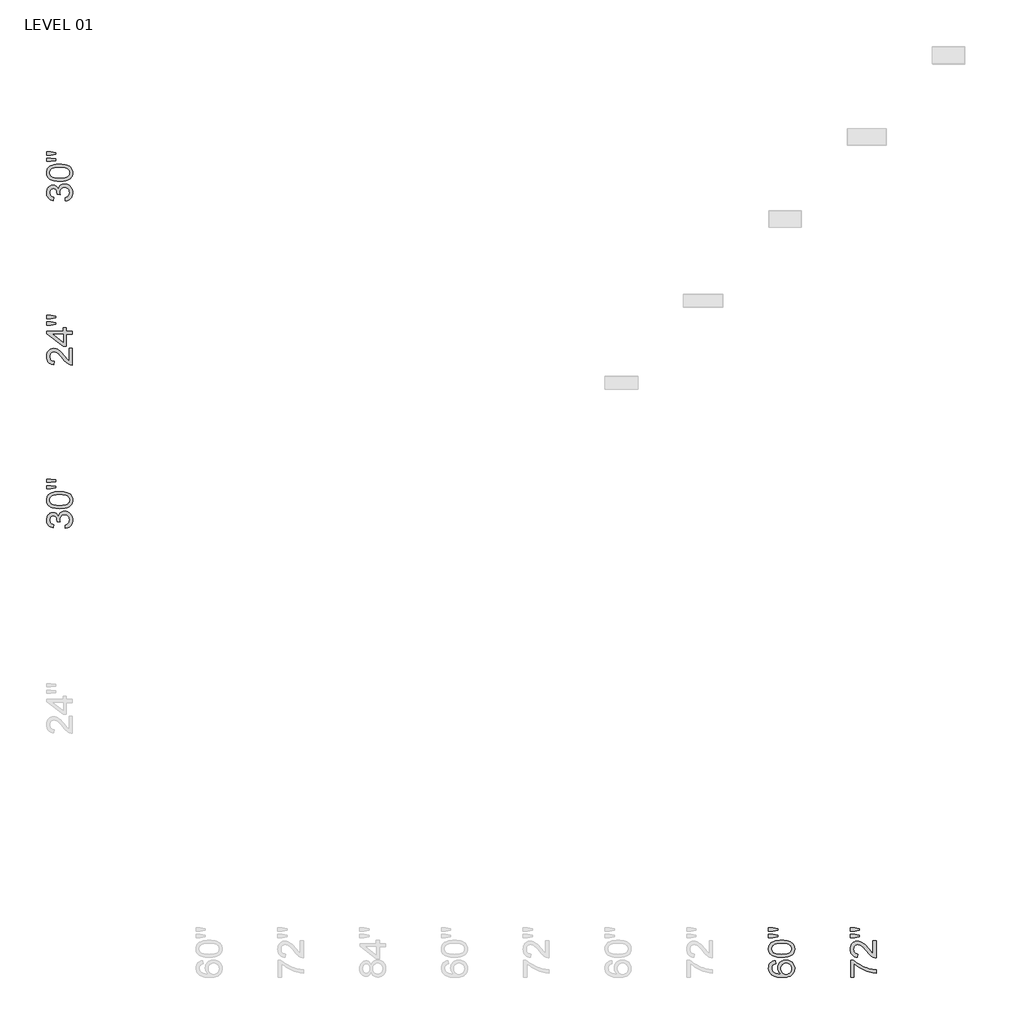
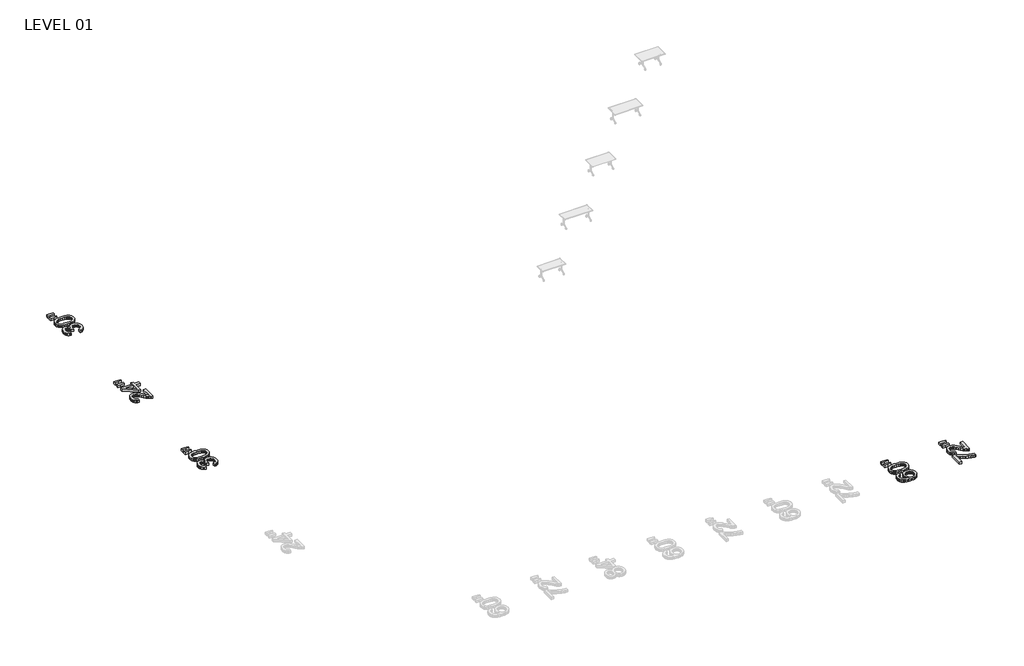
# One storey, part 3 of 3: 5 proxies.
"""IFC4 building model written with IfcOpenShell, lengths in millimetres."""

import ifcopenshell
import ifcopenshell.guid

model = None  # the IFC model being written
_history = None  # IfcOwnerHistory: only IFC2X3 demands one
_inside = {}  # id of a spatial element -> (the spatial element, [elements in it])
_under = {}  # id of a project, library or spatial element -> (it, [spatial elements below it])
_declared = {}  # id of a project -> (the project, [libraries it declares])
_typed = {}  # id of a type object -> (the type object, [elements of that type])
_made_of = {}  # id of a material, layer set ... -> (it, [elements and type objects made of it])


def new_model(schema):
    """Start an empty IFC model of exactly this schema.

    Asked for "IFC4X3", IfcOpenShell would pick the latest addendum, in which some entities
    have other attributes; the version numbers below select the first issue.
    IFC2X3 requires an IfcOwnerHistory on every rooted entity: one is made here for all.
    """
    global model, _history
    if schema == "IFC4X3":
        model = ifcopenshell.file(schema_version=(4, 3, 0, 0))
    else:
        model = ifcopenshell.file(schema=schema)
    _inside.clear()
    _under.clear()
    _declared.clear()
    _typed.clear()
    _made_of.clear()
    _history = None
    if model.schema == "IFC2X3":
        org = make("IfcOrganization", Name="unknown")
        user = make(
            "IfcPersonAndOrganization",
            ThePerson=make("IfcPerson", FamilyName="unknown"),
            TheOrganization=org,
        )
        app = make(
            "IfcApplication",
            ApplicationDeveloper=org,
            Version="unknown",
            ApplicationFullName="unknown",
            ApplicationIdentifier="unknown",
        )
        _history = make(
            "IfcOwnerHistory",
            OwningUser=user,
            OwningApplication=app,
            ChangeAction="ADDED",
            CreationDate=0,
        )
    return model


def make(cls, **values):
    """One entity of the class cls with the attributes given. An attribute that is None is left unset."""
    return model.create_entity(
        cls, **{name: value for name, value in values.items() if value is not None}
    )


def rooted(cls, **values):
    """An entity with a GlobalId (a new one), such as an element, a storey or a relation."""
    return make(cls, GlobalId=ifcopenshell.guid.new(), OwnerHistory=_history, **values)


def si_unit(unit_type, name, prefix=None):
    """IfcSIUnit, for example si_unit("LENGTHUNIT", "METRE", prefix="MILLI")."""
    return make("IfcSIUnit", UnitType=unit_type, Prefix=prefix, Name=name)


def assignment(units):
    """IfcUnitAssignment: the units of a project."""
    return None if units is None else make("IfcUnitAssignment", Units=units)


def point(xyz):
    """IfcCartesianPoint."""
    return None if xyz is None else make("IfcCartesianPoint", Coordinates=xyz)


def direction(xyz):
    """IfcDirection."""
    return None if xyz is None else make("IfcDirection", DirectionRatios=xyz)


def frame(location, z_axis=None, x_axis=None):
    """IfcAxis2Placement3D, a coordinate frame: its origin and axes. An axis left out is left unset."""
    return make(
        "IfcAxis2Placement3D",
        Location=point(location),
        Axis=direction(z_axis),
        RefDirection=direction(x_axis),
    )


def origin():
    """The frame at (0, 0, 0) with its axes left unset."""
    return frame((0.0, 0.0, 0.0))


def origin_with_axes():
    """The frame at (0, 0, 0) with the z axis (0, 0, 1) and the x axis (1, 0, 0) written out."""
    return frame((0.0, 0.0, 0.0), z_axis=(0.0, 0.0, 1.0), x_axis=(1.0, 0.0, 0.0))


def place(relative_to, where):
    """IfcLocalPlacement: puts the frame where relative to a parent placement (None: the world)."""
    return make(
        "IfcLocalPlacement", PlacementRelTo=relative_to, RelativePlacement=where
    )


def context(
    kind, dimensions, precision=None, world=None, true_north=None, identifier=None
):
    """IfcGeometricRepresentationContext, for example the 3D "Model" context."""
    return make(
        "IfcGeometricRepresentationContext",
        ContextIdentifier=identifier,
        ContextType=kind,
        CoordinateSpaceDimension=dimensions,
        Precision=precision,
        WorldCoordinateSystem=world,
        TrueNorth=true_north,
    )


def project(units=None, contexts=None):
    """IfcProject with its units and contexts."""
    return rooted(
        "IfcProject",
        Name="project",
        RepresentationContexts=contexts,
        UnitsInContext=assignment(units),
    )


def spatial(cls, under=None, at=None, **own):
    """A site, building, storey or space (cls), placed at a placement, below another one or the project."""
    s = rooted(cls, ObjectPlacement=at, **own)
    if under is not None:
        _under.setdefault(under.id(), (under, []))[1].append(s)
    return s


def polyline(points):
    """IfcPolyline through the points."""
    return make("IfcPolyline", Points=[point(p) for p in points])


def outline(outer, holes=None, kind="AREA"):
    """IfcArbitraryClosedProfileDef: a profile drawn as a closed curve; with holes, ...WithVoids."""
    if holes is None:
        return make("IfcArbitraryClosedProfileDef", ProfileType=kind, OuterCurve=outer)
    return make(
        "IfcArbitraryProfileDefWithVoids",
        ProfileType=kind,
        OuterCurve=outer,
        InnerCurves=holes,
    )


def extrude(swept, where, along, depth):
    """IfcExtrudedAreaSolid: the profile swept, set in the frame where, extruded along a direction by depth."""
    return make(
        "IfcExtrudedAreaSolid",
        SweptArea=swept,
        Position=where,
        ExtrudedDirection=direction(along),
        Depth=depth,
    )


def shape(context_of_items, identifier, shape_type, items):
    """IfcShapeRepresentation: the items that make up one representation, for example the "Body"."""
    return make(
        "IfcShapeRepresentation",
        ContextOfItems=context_of_items,
        RepresentationIdentifier=identifier,
        RepresentationType=shape_type,
        Items=items,
    )


def made_of(thing, what):
    """Note that an element or type object is made of a material, layer set ...; save() writes the relation."""
    if what is not None:
        _made_of.setdefault(what.id(), (what, []))[1].append(thing)
    return thing


def element(
    cls,
    number,
    at=None,
    inside=None,
    cuts=None,
    type_object=None,
    material=None,
    context=None,
    identifier="Body",
    shape_type=None,
    held_by="IfcProductDefinitionShape",
    body=None,
    shapes=None,
    **own,
):
    """One element of the class cls, such as IfcWall. Its Tag is "e" and its number.

    at: its placement. inside: the storey or other place that contains it. cuts: it is an
    opening in that element (IfcRelVoidsElement). A single representation is given by context,
    identifier, shape_type and body (its items); several are given by shapes. held_by: the class
    of the entity that holds the representations. save() writes the other relations.
    """
    e = rooted(cls, Tag="e%d" % number, ObjectPlacement=at, **own)
    if body is not None:
        shapes = [shape(context, identifier, shape_type, body)]
    if shapes is not None:
        e.Representation = make(held_by, Representations=shapes)
    if inside is not None:
        _inside.setdefault(inside.id(), (inside, []))[1].append(e)
    if cuts is not None:
        rooted(
            "IfcRelVoidsElement", RelatingBuildingElement=cuts, RelatedOpeningElement=e
        )
    if type_object is not None:
        _typed.setdefault(type_object.id(), (type_object, []))[1].append(e)
    return made_of(e, material)


def aggregate(whole, parts):
    """IfcRelAggregates: a whole, such as a stair, and the parts it consists of."""
    return rooted("IfcRelAggregates", RelatingObject=whole, RelatedObjects=parts)


def save(model, path):
    """Write the relations noted so far, then the file.

    IfcRelAggregates (storeys below a building ...), IfcRelContainedInSpatialStructure (elements
    in a storey), IfcRelDefinesByType, IfcRelAssociatesMaterial and IfcRelDeclares: one each for
    every whole, place, type object, material and project.
    """
    for whole, parts in _under.values():
        aggregate(whole, parts)
    for where, things in _inside.values():
        rooted(
            "IfcRelContainedInSpatialStructure",
            RelatedElements=things,
            RelatingStructure=where,
        )
    for kind, things in _typed.values():
        rooted("IfcRelDefinesByType", RelatedObjects=things, RelatingType=kind)
    for what, things in _made_of.values():
        rooted("IfcRelAssociatesMaterial", RelatedObjects=things, RelatingMaterial=what)
    for by, libraries in _declared.values():
        rooted("IfcRelDeclares", RelatingContext=by, RelatedDefinitions=libraries)
    model.write(path)


model = new_model("IFC4")

# Units and contexts
model_context = context("Model", 3, world=origin())
ifc_project = project(units=[si_unit("LENGTHUNIT", "METRE", prefix="MILLI")], contexts=[model_context])

# Site, building, storey
site = spatial("IfcSite", under=ifc_project)
building = spatial("IfcBuilding", under=site)
storey = spatial("IfcBuildingStorey", under=building, Name="LEVEL 01", Elevation=0.0)

# Proxies
placement = place(None, origin())
element("IfcBuildingElementProxy", 1, Name="48\" Arial", ObjectType="48\" Arial", at=placement, inside=storey, context=model_context, shape_type="SweptSolid", body=[
    extrude(outline(polyline([(-30208.5180809, -24506.7105112), (-30227.275004, -24356.6551266), (-30176.2979367, -24341.8089487), (-30132.977504, -24323.0611843), (-30097.3137059, -24300.4118333), (-30069.3065425, -24273.8608958), (-30048.1500521, -24242.8039006), (-30033.0382732, -24206.6363766), (-30023.9712059, -24165.3583237), (-30020.9488502, -24118.9697419), (-30025.106879, -24064.6039727), (-30037.5809655, -24016.0997419), (-30058.3711098, -23973.4570496), (-30087.4773117, -23936.6758958), (-30122.7198117, -23907.0568093), (-30161.9188502, -23885.9003189), (-30205.0744271, -23873.2064246), (-30252.1865425, -23868.9751266), (-30297.0547877, -23873.16979), (-30337.8749079, -23885.7537804), (-30374.646903, -23906.7270977), (-30407.3707732, -23936.0897419), (-30434.233105, -23971.9183958), (-30453.4204848, -24012.2897419), (-30464.9329127, -24057.2037804), (-30468.7703886, -24106.6605112), (-30464.6673117, -24154.0657035), (-30452.3580809, -24211.8751266), (-30602.4134655, -24195.1697419), (-30600.655004, -24171.1374343), (-30603.3476482, -24124.9961362), (-30611.4255809, -24081.2360881), (-30624.8888021, -24039.85729), (-30643.7373117, -24000.8597419), (-30668.1726002, -23967.7786843), (-30698.3961579, -23944.1493573), (-30734.4079848, -23929.9717612), (-30776.2080809, -23925.2458958), (-30810.1408934, -23928.6712323), (-30841.0147155, -23938.9472419), (-30868.8295473, -23956.0739246), (-30893.5853886, -23980.0512804), (-30913.9084415, -24009.4322419), (-30928.4249079, -24042.7697419), (-30937.1347877, -24080.0637804), (-30940.0380809, -24121.3143573), (-30937.1073117, -24162.4550304), (-30928.315004, -24200.0055112), (-30913.6611579, -24233.9657996), (-30893.1457732, -24264.3358958), (-30866.7688502, -24290.36479), (-30834.5303886, -24311.3014727), (-30796.4303886, -24327.1459439), (-30752.4688502, -24337.8982035), (-30771.2257732, -24487.9535881), (-30842.8647636, -24470.1674823), (-30905.9678886, -24443.7722419), (-30960.5351482, -24408.7678669), (-31006.5665425, -24365.1543573), (-31043.1095713, -24314.3055112), (-31069.2117348, -24257.5951266), (-31084.8730329, -24195.0232035), (-31090.0934655, -24126.5897419), (-31087.5198838, -24078.461016), (-31079.7991386, -24032.2556073), (-31066.93123, -23987.973516), (-31048.9161579, -23945.6147419), (-31026.4408213, -23906.6538285), (-31000.1921194, -23872.5653189), (-30970.1700521, -23843.3492131), (-30936.3746194, -23819.0055112), (-30900.1521434, -23799.8364487), (-30862.8489463, -23786.1442612), (-30824.465028, -23777.9289487), (-30785.0003886, -23775.1905112), (-30747.8895232, -23777.7915689), (-30712.4638502, -23785.5947419), (-30678.7233694, -23798.6000304), (-30646.6680809, -23816.8074343), (-30617.0489944, -23840.1070496), (-30590.6171194, -23868.3889727), (-30567.3724559, -23901.6532035), (-30547.315004, -23939.8997419), (-30531.6720232, -23889.8934919), (-30509.3615425, -23845.9685881), (-30480.3835617, -23808.1250304), (-30444.7380809, -23776.3628189), (-30403.3043309, -23751.2314727), (-30356.9615425, -23733.2805112), (-30305.7097155, -23722.5099343), (-30249.5488502, -23718.9197419), (-30210.7344752, -23720.7148381), (-30173.4221194, -23726.1001266), (-30137.6117829, -23735.0756073), (-30103.3034655, -23747.6412804), (-30070.4971675, -23763.7971458), (-30039.1928886, -23783.5432035), (-30009.390629, -23806.8794535), (-29981.0903886, -23833.8058958), (-29955.2629848, -23863.4753549), (-29932.8792348, -23895.0406554), (-29913.9391386, -23928.5017972), (-29898.4426963, -23963.8587804), (-29886.3899079, -24001.1116049), (-29877.7807732, -24040.2602708), (-29872.6152925, -24081.304778), (-29870.8934655, -24124.2451266), (-29876.7733213, -24200.1520496), (-29884.123141, -24235.5777227), (-29894.4128886, -24269.3182035), (-29907.6425641, -24301.3734919), (-29923.8121675, -24331.7435881), (-29942.9216987, -24360.4284919), (-29964.9711579, -24387.4282035), (-29989.3560737, -24412.1794655), (-30015.4719752, -24434.1190208), (-30043.3188622, -24453.2468694), (-30072.8967348, -24469.5630112), (-30104.2055929, -24483.0674463), (-30137.2454367, -24493.7601746), (-30208.5180809, -24506.7105112)])), origin_with_axes(), (0.0, 0.0, 1.0), 152.4),
    extrude(outline(polyline([(-30480.2003886, -23587.6212804), (-30581.1379127, -23584.8645256), (-30672.3489463, -23576.5942612), (-30753.8334896, -23562.8104871), (-30825.5915425, -23543.5132035), (-30888.2092588, -23518.7848381), (-30942.2727925, -23488.7078189), (-30987.7821434, -23453.2821458), (-31024.7373117, -23412.5078189), (-31053.330629, -23366.2474583), (-31073.7544271, -23314.3636843), (-31086.0087059, -23256.8564968), (-31090.0934655, -23193.7258958), (-31087.6755809, -23146.2840689), (-31080.4219271, -23101.2601266), (-31068.332504, -23058.6540689), (-31051.4073117, -23018.4658958), (-31029.9302684, -22981.6664246), (-31004.1852925, -22949.2264727), (-30974.1723838, -22921.14604), (-30939.8915425, -22897.4251266), (-30901.4801482, -22876.8731073), (-30859.0755809, -22858.2993573), (-30762.2869271, -22827.086665), (-30705.3658934, -22815.1620977), (-30639.3777925, -22806.6445496), (-30564.3226242, -22801.5340208), (-30480.2003886, -22799.8305112), (-30379.9039704, -22802.55979), (-30289.1508694, -22810.7476266), (-30207.9410857, -22824.3940208), (-30136.2746194, -22843.4989727), (-30073.6294271, -22868.0350064), (-30019.4834655, -22897.9746458), (-29973.8367348, -22933.317891), (-29936.6892348, -22974.0647419), (-29907.9035857, -23020.3800544), (-29887.3424079, -23072.4286843), (-29875.0057011, -23130.2106314), (-29870.8934655, -23193.7258958), (-29872.679403, -23236.2220496), (-29878.0372155, -23276.3735881), (-29886.966903, -23314.1805112), (-29899.4684655, -23349.6428189), (-29915.541903, -23382.7605112), (-29935.1872155, -23413.5335881), (-29958.404403, -23441.9620496), (-29985.1934655, -23468.0458958), (-30027.6117708, -23496.0713766), (-30075.589379, -23520.3601266), (-30129.1262901, -23540.9121458), (-30188.222504, -23557.7274343), (-30252.8780208, -23570.8059919), (-30323.0928405, -23580.1478189), (-30398.8669631, -23585.752915), (-30480.2003886, -23587.6212804)]), holes=[polyline([(-30480.4934655, -23437.5658958), (-30350.0467588, -23433.1697419), (-30244.4566386, -23419.9812804), (-30200.9827985, -23410.0899343), (-30163.723105, -23398.0005112), (-30132.6775581, -23383.7130112), (-30107.8461579, -23367.2274343), (-30069.8285857, -23330.006665), (-30042.6731771, -23288.6828189), (-30026.3799319, -23243.2558958), (-30020.9488502, -23193.7258958), (-30026.3982492, -23144.1958958), (-30042.7464463, -23098.7689727), (-30069.9934415, -23057.4451266), (-30108.1392348, -23020.2243573), (-30133.0301663, -23003.7387804), (-30164.1077684, -22989.4512804), (-30201.3720413, -22977.3618573), (-30244.8229848, -22967.4705112), (-30350.2848838, -22954.2820496), (-30480.4934655, -22949.8858958), (-30607.4873598, -22954.1355112), (-30711.2182732, -22966.8843573), (-30754.3601122, -22976.4459919), (-30791.6862059, -22988.1324343), (-30823.1965545, -23001.9436843), (-30848.8911579, -23017.8797419), (-30888.7679367, -23054.4777227), (-30917.2513502, -23096.2778189), (-30934.3413982, -23143.2800304), (-30940.0380809, -23195.4843573), (-30935.0191386, -23244.757915), (-30919.9623117, -23289.4155112), (-30894.8676002, -23329.4571458), (-30859.735004, -23364.8828189), (-30831.3065425, -23381.917915), (-30797.4561579, -23396.681665), (-30758.1838502, -23409.1740689), (-30713.4896194, -23419.3951266), (-30607.8353886, -23433.0232035), (-30480.4934655, -23437.5658958)])]), origin_with_axes(), (0.0, 0.0, 1.0), 152.4),
    extrude(outline(polyline([(-30658.6842348, -22631.8974343), (-30890.5080809, -22668.5320496), (-31090.0934655, -22668.5320496), (-31090.0934655, -22518.476665), (-30890.5080809, -22518.476665), (-30658.6842348, -22551.3012804), (-30658.6842348, -22631.8974343)])), origin_with_axes(), (0.0, 0.0, 1.0), 152.4),
    extrude(outline(polyline([(-30658.6842348, -22332.6658958), (-30890.5080809, -22368.4212804), (-31090.0934655, -22368.4212804), (-31090.0934655, -22218.3658958), (-30890.5080809, -22218.3658958), (-30658.6842348, -22253.5351266), (-30658.6842348, -22332.6658958)])), origin_with_axes(), (0.0, 0.0, 1.0), 152.4),
])
element("IfcBuildingElementProxy", 2, Name="48\" Arial", ObjectType="48\" Arial", at=placement, inside=storey, context=model_context, shape_type="SweptSolid", body=[
    extrude(outline(polyline([(2862.965076, -44634.505035), (2881.7219991, -44784.5604197), (2841.588778, -44795.5874389), (2807.3537299, -44808.7392658), (2779.0168549, -44824.0159004), (2756.578153, -44841.4173427), (2729.2670472, -44873.6741216), (2709.7591145, -44909.4844581), (2698.0543549, -44948.8483524), (2694.1527684, -44991.7658043), (2696.4241145, -45027.1548427), (2703.238153, -45061.518112), (2714.5948837, -45094.855612), (2730.4943068, -45127.1673427), (2756.4957251, -45156.6490495), (2787.9007491, -45183.5480158), (2824.7093789, -45207.8642418), (2866.9216145, -45229.5977274), (2917.3216866, -45247.5944822), (2978.693826, -45260.7005158), (3051.0380328, -45268.9158283), (3134.3543068, -45272.2404197), (3096.6481289, -45243.6379437), (3064.1257491, -45212.0497466), (3036.7871674, -45177.4758283), (3014.6323837, -45139.9161889), (2997.5148597, -45100.3782802), (2985.2880568, -45059.8695543), (2977.9519751, -45018.390011), (2975.5066145, -44975.9396504), (2977.1780688, -44939.1951312), (2982.1924318, -44903.8427274), (2990.5497034, -44869.8824389), (3002.2498837, -44837.3142658), (3017.2929727, -44806.1382081), (3035.6789703, -44776.3542658), (3057.4078765, -44747.9624389), (3082.4796914, -44720.9627274), (3110.1983573, -44696.3030519), (3139.8678164, -44674.9313331), (3171.4880688, -44656.8475711), (3205.0591145, -44642.0517658), (3240.5809534, -44630.5439173), (3278.0535857, -44622.3240254), (3317.4770111, -44617.3920903), (3358.8512299, -44615.748112), (3413.5558693, -44618.843737), (3466.3005568, -44628.130612), (3517.0852924, -44643.608737), (3565.910076, -44665.278112), (3610.9523357, -44692.36941), (3650.3894991, -44724.1133043), (3684.2215664, -44760.5097947), (3712.4485376, -44801.5588812), (3734.6949078, -44846.3813331), (3750.5851722, -44894.0979197), (3760.1193309, -44944.7086408), (3763.2973837, -44998.2134966), (3761.1908934, -45044.0227935), (3754.8714222, -45087.6660687), (3744.3389703, -45129.1433223), (3729.5935376, -45168.4545543), (3710.6351241, -45205.5997646), (3687.4637299, -45240.5789533), (3660.0793549, -45273.3921204), (3628.4819991, -45304.0392658), (3592.0488741, -45331.755642), (3550.1571914, -45355.7765014), (3502.806951, -45376.1018439), (3449.998153, -45392.7316697), (3391.7307972, -45405.6659786), (3328.0048837, -45414.9047706), (3258.8204126, -45420.4480459), (3184.1773837, -45422.2958043), (3100.6000881, -45420.2442658), (3022.9301241, -45414.0896504), (2951.1674919, -45403.8319581), (2885.3121914, -45389.4711889), (2825.3642227, -45371.0073427), (2771.3235857, -45348.4404197), (2723.1902804, -45321.7704197), (2680.9643068, -45290.9973427), (2648.8861217, -45261.1080759), (2621.085028, -45228.7368139), (2597.5610256, -45193.8835567), (2578.3141145, -45156.5483043), (2563.3442948, -45116.7310567), (2552.6515664, -45074.4318139), (2546.2359294, -45029.6505759), (2544.0973837, -44982.3873427), (2549.3910857, -44913.2761408), (2565.2721914, -44850.722535), (2591.740701, -44794.7265254), (2628.7966145, -44745.288112), (2675.1943549, -44703.7444581), (2729.6883453, -44671.4327274), (2792.2785857, -44648.3529197), (2862.965076, -44634.505035)]), holes=[polyline([(3356.5066145, -45272.2404197), (3390.1280328, -45270.0698187), (3422.9984414, -45263.5580158), (3455.1178405, -45252.705011), (3486.4862299, -45237.5108043), (3515.6290664, -45218.7172466), (3541.0718068, -45197.0661889), (3562.814451, -45172.5576312), (3580.8569991, -45145.1915735), (3595.0254366, -45115.1420302), (3605.1457491, -45082.5830158), (3611.2179366, -45047.5145302), (3613.2419991, -45009.9365735), (3609.0473357, -44957.7780399), (3596.4633453, -44910.9132081), (3575.490028, -44869.3420783), (3546.1273837, -44833.0646504), (3509.5660376, -44803.6378956), (3466.9966145, -44782.618785), (3418.4191145, -44770.0073187), (3363.8335376, -44765.8034966), (3311.381927, -44769.9523668), (3264.8101722, -44782.3989774), (3224.1182732, -44803.1433283), (3189.3062299, -44832.1854197), (3161.4181289, -44868.5727514), (3141.4980568, -44911.3528235), (3129.5460135, -44960.525636), (3125.5619991, -45016.0911889), (3129.5460135, -45067.5536649), (3141.4980568, -45114.9680158), (3161.4181289, -45158.3342418), (3189.3062299, -45197.6523427), (3223.6603405, -45230.2846264), (3262.9784414, -45253.5934004), (3307.2605328, -45267.5786649), (3356.5066145, -45272.2404197)])]), origin_with_axes(), (0.0, 0.0, 1.0), 152.4),
    extrude(outline(polyline([(3153.9904607, -44484.4496504), (3053.0529366, -44481.6928956), (2961.841903, -44473.4226312), (2880.3573597, -44459.6388572), (2808.5993068, -44440.3415735), (2745.9815905, -44415.6132081), (2691.9180568, -44385.5361889), (2646.4087059, -44350.1105158), (2609.4535376, -44309.3361889), (2580.8602203, -44263.0758283), (2560.4364222, -44211.1920543), (2548.1821434, -44153.6848668), (2544.0973837, -44090.5542658), (2546.5152684, -44043.1124389), (2553.7689222, -43998.0884966), (2565.8583453, -43955.4824389), (2582.7835376, -43915.2942658), (2604.2605809, -43878.4947947), (2630.0055568, -43846.0548427), (2660.0184655, -43817.97441), (2694.2993068, -43794.2534966), (2732.710701, -43773.7014774), (2775.1152684, -43755.1277274), (2871.9039222, -43723.915035), (2928.8249559, -43711.9904677), (2994.8130568, -43703.4729197), (3069.8682251, -43698.3623908), (3153.9904607, -43696.6588812), (3254.2868789, -43699.38816), (3345.0399799, -43707.5759966), (3426.2497635, -43721.2223908), (3497.9162299, -43740.3273427), (3560.5614222, -43764.8633764), (3614.7073837, -43794.8030158), (3660.3541145, -43830.146261), (3697.5016145, -43870.893112), (3726.2872635, -43917.2084245), (3746.8484414, -43969.2570543), (3759.1851482, -44027.0390014), (3763.2973837, -44090.5542658), (3761.5114462, -44133.0504197), (3756.1536337, -44173.2019581), (3747.2239462, -44211.0088812), (3734.7223837, -44246.4711889), (3718.6489462, -44279.5888812), (3699.0036337, -44310.3619581), (3675.7864462, -44338.7904197), (3648.9973837, -44364.8742658), (3606.5790784, -44392.8997466), (3558.6014703, -44417.1884966), (3505.0645592, -44437.7405158), (3445.9683453, -44454.5558043), (3381.3128284, -44467.634362), (3311.0980087, -44476.9761889), (3235.3238861, -44482.581285), (3153.9904607, -44484.4496504)]), holes=[polyline([(3153.6973837, -44334.3942658), (3284.1440905, -44329.998112), (3389.7342107, -44316.8096504), (3433.2080508, -44306.9183043), (3470.4677443, -44294.8288812), (3501.5132912, -44280.5413812), (3526.3446914, -44264.0558043), (3564.3622635, -44226.835035), (3591.5176722, -44185.5111889), (3607.8109174, -44140.0842658), (3613.2419991, -44090.5542658), (3607.7926001, -44041.0242658), (3591.444403, -43995.5973427), (3564.1974078, -43954.2734966), (3526.0516145, -43917.0527274), (3501.160683, -43900.5671504), (3470.0830809, -43886.2796504), (3432.818808, -43874.1902274), (3389.3678645, -43864.2988812), (3283.9059655, -43851.1104197), (3153.6973837, -43846.7142658), (3026.7034895, -43850.9638812), (2922.972576, -43863.7127274), (2879.8307371, -43873.274362), (2842.5046434, -43884.9608043), (2810.9942948, -43898.7720543), (2785.2996914, -43914.708112), (2745.4229126, -43951.3060927), (2716.9394991, -43993.1061889), (2699.849451, -44040.1084004), (2694.1527684, -44092.3127274), (2699.1717107, -44141.586285), (2714.2285376, -44186.2438812), (2739.3232491, -44226.2855158), (2774.4558453, -44261.7111889), (2802.8843068, -44278.746285), (2836.7346914, -44293.510035), (2876.0069991, -44306.0024389), (2920.7012299, -44316.2234966), (3026.3554607, -44329.8515735), (3153.6973837, -44334.3942658)])]), origin_with_axes(), (0.0, 0.0, 1.0), 152.4),
    extrude(outline(polyline([(2975.5066145, -43229.4942658), (2743.6827684, -43265.2496504), (2544.0973837, -43265.2496504), (2544.0973837, -43115.1942658), (2743.6827684, -43115.1942658), (2975.5066145, -43150.3634966), (2975.5066145, -43229.4942658)])), origin_with_axes(), (0.0, 0.0, 1.0), 152.4),
    extrude(outline(polyline([(2975.5066145, -43528.7258043), (2743.6827684, -43565.3604197), (2544.0973837, -43565.3604197), (2544.0973837, -43415.305035), (2743.6827684, -43415.305035), (2975.5066145, -43448.1296504), (2975.5066145, -43528.7258043)])), origin_with_axes(), (0.0, 0.0, 1.0), 152.4),
])
element("IfcBuildingElementProxy", 3, Name="48\" Arial", ObjectType="48\" Arial", at=placement, inside=storey, context=model_context, shape_type="SweptSolid", body=[
    extrude(outline(polyline([(6522.9096914, -45403.5388812), (6372.8543068, -45403.5388812), (6372.8543068, -44615.748112), (6494.188153, -44615.748112), (6560.4143789, -44672.0280399), (6636.293826, -44728.0332081), (6721.8264943, -44783.7636168), (6817.0123837, -44839.2192658), (6917.7301001, -44891.3961168), (7019.8582491, -44937.2901312), (7123.3968309, -44976.9013091), (7228.3458453, -45010.2296504), (7304.5641626, -45030.085612), (7384.3360376, -45045.985035), (7467.6614703, -45057.9279197), (7554.5404607, -45065.9142658), (7554.5404607, -45215.9696504), (7480.8499318, -45211.2529437), (7399.8691145, -45199.7405158), (7311.5980087, -45181.4323668), (7216.0366145, -45156.3284966), (7117.7184655, -45124.7219822), (7021.1770953, -45086.9059004), (6926.4125039, -45042.8802514), (6833.4246914, -44992.645035), (6744.9429366, -44938.4624389), (6663.6965184, -44882.5946504), (6589.6854366, -44825.0416697), (6522.9096914, -44765.8034966), (6522.9096914, -45403.5388812)])), origin_with_axes(), (0.0, 0.0, 1.0), 152.4),
    extrude(outline(polyline([(7404.485076, -43715.4158043), (7554.5404607, -43715.4158043), (7554.5404607, -44503.2065735), (7501.7133453, -44499.9094581), (7451.0843068, -44487.0873427), (7410.3557732, -44470.729987), (7370.2317107, -44450.0863812), (7330.7121193, -44425.1565254), (7291.7969991, -44395.9404197), (7251.9660135, -44360.6796024), (7209.698826, -44317.615612), (7117.8558453, -44208.078112), (7041.2345472, -44119.019362), (6974.0283453, -44046.153112), (6916.2372395, -43989.479362), (6867.8612299, -43948.998112), (6824.4858453, -43920.661237), (6781.6966145, -43900.420612), (6739.4935376, -43888.276237), (6697.8766145, -43884.228112), (6658.7233693, -43888.0472706), (6622.7390184, -43899.5047466), (6589.9235616, -43918.6005399), (6560.2769991, -43945.3346504), (6535.7226482, -43978.2233764), (6518.183826, -44015.7830158), (6507.6605328, -44058.0135687), (6504.1527684, -44104.915035), (6507.5781049, -44154.3259725), (6517.8541145, -44198.5164774), (6534.9807972, -44237.4865495), (6558.958153, -44271.2361889), (6588.9802203, -44298.538136), (6624.2410376, -44318.1651312), (6664.7406049, -44330.1171745), (6710.4789222, -44334.3942658), (6691.7219991, -44484.4496504), (6614.2581049, -44471.5451072), (6579.1941986, -44461.1294281), (6546.575653, -44448.0714774), (6516.4024679, -44432.371255), (6488.6746434, -44414.028761), (6463.3921794, -44393.0439954), (6440.555076, -44369.4169581), (6420.2915544, -44343.4040915), (6402.7298357, -44315.2618379), (6387.8699198, -44284.9901973), (6375.7118068, -44252.5891697), (6359.5009895, -44181.3989533), (6354.0973837, -44101.6911889), (6360.1054607, -44021.2690495), (6367.6155568, -43984.3757021), (6378.1296914, -43949.6941697), (6391.6478645, -43917.2244521), (6408.170076, -43886.9665495), (6427.696326, -43858.9204617), (6450.2266145, -43833.0861889), (6474.9824559, -43809.9033463), (6501.1853645, -43789.8115495), (6528.8353405, -43772.8107983), (6557.9323837, -43758.9010927), (6588.4764943, -43748.0824329), (6620.4676722, -43740.3548187), (6653.9059174, -43735.7182502), (6688.7912299, -43734.1727274), (6724.8305328, -43735.8396024), (6760.5584414, -43740.8402274), (6795.9749559, -43749.1746024), (6831.080076, -43760.8427274), (6866.4874318, -43776.3849629), (6902.810653, -43796.3416697), (6978.2046914, -43849.4984966), (7020.0139462, -43886.1789052), (7068.2159414, -43934.234362), (7183.798153, -44064.4704197), (7328.1385376, -44237.0927274), (7366.201903, -44274.5333043), (7404.485076, -44304.7934966), (7404.485076, -43715.4158043)])), origin_with_axes(), (0.0, 0.0, 1.0), 152.4),
    extrude(outline(polyline([(6785.5066145, -43229.4942658), (6553.6827684, -43265.2496504), (6354.0973837, -43265.2496504), (6354.0973837, -43115.1942658), (6553.6827684, -43115.1942658), (6785.5066145, -43150.3634966), (6785.5066145, -43229.4942658)])), origin_with_axes(), (0.0, 0.0, 1.0), 152.4),
    extrude(outline(polyline([(6785.5066145, -43528.7258043), (6553.6827684, -43565.3604197), (6354.0973837, -43565.3604197), (6354.0973837, -43415.305035), (6553.6827684, -43415.305035), (6785.5066145, -43448.1296504), (6785.5066145, -43528.7258043)])), origin_with_axes(), (0.0, 0.0, 1.0), 152.4),
])
element("IfcBuildingElementProxy", 4, Name="48\" Arial", ObjectType="48\" Arial", at=placement, inside=storey, context=model_context, shape_type="SweptSolid", body=[
    extrude(outline(polyline([(-30208.5180809, -9266.7105112), (-30227.275004, -9116.6551266), (-30176.2979367, -9101.8089487), (-30132.977504, -9083.0611843), (-30097.3137059, -9060.4118333), (-30069.3065425, -9033.8608958), (-30048.1500521, -9002.8039006), (-30033.0382732, -8966.6363766), (-30023.9712059, -8925.3583237), (-30020.9488502, -8878.9697419), (-30025.106879, -8824.6039727), (-30037.5809655, -8776.0997419), (-30058.3711098, -8733.4570496), (-30087.4773117, -8696.6758958), (-30122.7198117, -8667.0568093), (-30161.9188502, -8645.9003189), (-30205.0744271, -8633.2064246), (-30252.1865425, -8628.9751266), (-30297.0547877, -8633.16979), (-30337.8749079, -8645.7537804), (-30374.646903, -8666.7270977), (-30407.3707732, -8696.0897419), (-30434.233105, -8731.9183958), (-30453.4204848, -8772.2897419), (-30464.9329127, -8817.2037804), (-30468.7703886, -8866.6605112), (-30464.6673117, -8914.0657035), (-30452.3580809, -8971.8751266), (-30602.4134655, -8955.1697419), (-30600.655004, -8931.1374343), (-30603.3476482, -8884.9961362), (-30611.4255809, -8841.2360881), (-30624.8888021, -8799.85729), (-30643.7373117, -8760.8597419), (-30668.1726002, -8727.7786843), (-30698.3961579, -8704.1493573), (-30734.4079848, -8689.9717612), (-30776.2080809, -8685.2458958), (-30810.1408934, -8688.6712323), (-30841.0147155, -8698.9472419), (-30868.8295473, -8716.0739246), (-30893.5853886, -8740.0512804), (-30913.9084415, -8769.4322419), (-30928.4249079, -8802.7697419), (-30937.1347877, -8840.0637804), (-30940.0380809, -8881.3143573), (-30937.1073117, -8922.4550304), (-30928.315004, -8960.0055112), (-30913.6611579, -8993.9657996), (-30893.1457732, -9024.3358958), (-30866.7688502, -9050.36479), (-30834.5303886, -9071.3014727), (-30796.4303886, -9087.1459439), (-30752.4688502, -9097.8982035), (-30771.2257732, -9247.9535881), (-30842.8647636, -9230.1674823), (-30905.9678886, -9203.7722419), (-30960.5351482, -9168.7678669), (-31006.5665425, -9125.1543573), (-31043.1095713, -9074.3055112), (-31069.2117348, -9017.5951266), (-31084.8730329, -8955.0232035), (-31090.0934655, -8886.5897419), (-31087.5198838, -8838.461016), (-31079.7991386, -8792.2556073), (-31066.93123, -8747.973516), (-31048.9161579, -8705.6147419), (-31026.4408213, -8666.6538285), (-31000.1921194, -8632.5653189), (-30970.1700521, -8603.3492131), (-30936.3746194, -8579.0055112), (-30900.1521434, -8559.8364487), (-30862.8489463, -8546.1442612), (-30824.465028, -8537.9289487), (-30785.0003886, -8535.1905112), (-30747.8895232, -8537.7915689), (-30712.4638502, -8545.5947419), (-30678.7233694, -8558.6000304), (-30646.6680809, -8576.8074343), (-30617.0489944, -8600.1070496), (-30590.6171194, -8628.3889727), (-30567.3724559, -8661.6532035), (-30547.315004, -8699.8997419), (-30531.6720232, -8649.8934919), (-30509.3615425, -8605.9685881), (-30480.3835617, -8568.1250304), (-30444.7380809, -8536.3628189), (-30403.3043309, -8511.2314727), (-30356.9615425, -8493.2805112), (-30305.7097155, -8482.5099343), (-30249.5488502, -8478.9197419), (-30210.7344752, -8480.7148381), (-30173.4221194, -8486.1001266), (-30137.6117829, -8495.0756073), (-30103.3034655, -8507.6412804), (-30070.4971675, -8523.7971458), (-30039.1928886, -8543.5432035), (-30009.390629, -8566.8794535), (-29981.0903886, -8593.8058958), (-29955.2629848, -8623.4753549), (-29932.8792348, -8655.0406554), (-29913.9391386, -8688.5017972), (-29898.4426963, -8723.8587804), (-29886.3899079, -8761.1116049), (-29877.7807732, -8800.2602708), (-29872.6152925, -8841.304778), (-29870.8934655, -8884.2451266), (-29876.7733213, -8960.1520496), (-29884.123141, -8995.5777227), (-29894.4128886, -9029.3182035), (-29907.6425641, -9061.3734919), (-29923.8121675, -9091.7435881), (-29942.9216987, -9120.4284919), (-29964.9711579, -9147.4282035), (-29989.3560737, -9172.1794655), (-30015.4719752, -9194.1190208), (-30043.3188622, -9213.2468694), (-30072.8967348, -9229.5630112), (-30104.2055929, -9243.0674463), (-30137.2454367, -9253.7601746), (-30208.5180809, -9266.7105112)])), origin_with_axes(), (0.0, 0.0, 1.0), 152.4),
    extrude(outline(polyline([(-30480.2003886, -8347.6212804), (-30581.1379127, -8344.8645256), (-30672.3489463, -8336.5942612), (-30753.8334896, -8322.8104871), (-30825.5915425, -8303.5132035), (-30888.2092588, -8278.7848381), (-30942.2727925, -8248.7078189), (-30987.7821434, -8213.2821458), (-31024.7373117, -8172.5078189), (-31053.330629, -8126.2474583), (-31073.7544271, -8074.3636843), (-31086.0087059, -8016.8564968), (-31090.0934655, -7953.7258958), (-31087.6755809, -7906.2840689), (-31080.4219271, -7861.2601266), (-31068.332504, -7818.6540689), (-31051.4073117, -7778.4658958), (-31029.9302684, -7741.6664246), (-31004.1852925, -7709.2264727), (-30974.1723838, -7681.14604), (-30939.8915425, -7657.4251266), (-30901.4801482, -7636.8731073), (-30859.0755809, -7618.2993573), (-30762.2869271, -7587.086665), (-30705.3658934, -7575.1620977), (-30639.3777925, -7566.6445496), (-30564.3226242, -7561.5340208), (-30480.2003886, -7559.8305112), (-30379.9039704, -7562.55979), (-30289.1508694, -7570.7476266), (-30207.9410857, -7584.3940208), (-30136.2746194, -7603.4989727), (-30073.6294271, -7628.0350064), (-30019.4834655, -7657.9746458), (-29973.8367348, -7693.317891), (-29936.6892348, -7734.0647419), (-29907.9035857, -7780.3800544), (-29887.3424079, -7832.4286843), (-29875.0057011, -7890.2106314), (-29870.8934655, -7953.7258958), (-29872.679403, -7996.2220496), (-29878.0372155, -8036.3735881), (-29886.966903, -8074.1805112), (-29899.4684655, -8109.6428189), (-29915.541903, -8142.7605112), (-29935.1872155, -8173.5335881), (-29958.404403, -8201.9620496), (-29985.1934655, -8228.0458958), (-30027.6117708, -8256.0713766), (-30075.589379, -8280.3601266), (-30129.1262901, -8300.9121458), (-30188.222504, -8317.7274343), (-30252.8780208, -8330.8059919), (-30323.0928405, -8340.1478189), (-30398.8669631, -8345.752915), (-30480.2003886, -8347.6212804)]), holes=[polyline([(-30480.4934655, -8197.5658958), (-30350.0467588, -8193.1697419), (-30244.4566386, -8179.9812804), (-30200.9827985, -8170.0899343), (-30163.723105, -8158.0005112), (-30132.6775581, -8143.7130112), (-30107.8461579, -8127.2274343), (-30069.8285857, -8090.006665), (-30042.6731771, -8048.6828189), (-30026.3799319, -8003.2558958), (-30020.9488502, -7953.7258958), (-30026.3982492, -7904.1958958), (-30042.7464463, -7858.7689727), (-30069.9934415, -7817.4451266), (-30108.1392348, -7780.2243573), (-30133.0301663, -7763.7387804), (-30164.1077684, -7749.4512804), (-30201.3720413, -7737.3618573), (-30244.8229848, -7727.4705112), (-30350.2848838, -7714.2820496), (-30480.4934655, -7709.8858958), (-30607.4873598, -7714.1355112), (-30711.2182732, -7726.8843573), (-30754.3601122, -7736.4459919), (-30791.6862059, -7748.1324343), (-30823.1965545, -7761.9436843), (-30848.8911579, -7777.8797419), (-30888.7679367, -7814.4777227), (-30917.2513502, -7856.2778189), (-30934.3413982, -7903.2800304), (-30940.0380809, -7955.4843573), (-30935.0191386, -8004.757915), (-30919.9623117, -8049.4155112), (-30894.8676002, -8089.4571458), (-30859.735004, -8124.8828189), (-30831.3065425, -8141.917915), (-30797.4561579, -8156.681665), (-30758.1838502, -8169.1740689), (-30713.4896194, -8179.3951266), (-30607.8353886, -8193.0232035), (-30480.4934655, -8197.5658958)])]), origin_with_axes(), (0.0, 0.0, 1.0), 152.4),
    extrude(outline(polyline([(-30658.6842348, -7391.8974343), (-30890.5080809, -7428.5320496), (-31090.0934655, -7428.5320496), (-31090.0934655, -7278.476665), (-30890.5080809, -7278.476665), (-30658.6842348, -7311.3012804), (-30658.6842348, -7391.8974343)])), origin_with_axes(), (0.0, 0.0, 1.0), 152.4),
    extrude(outline(polyline([(-30658.6842348, -7092.6658958), (-30890.5080809, -7128.4212804), (-31090.0934655, -7128.4212804), (-31090.0934655, -6978.3658958), (-30890.5080809, -6978.3658958), (-30658.6842348, -7013.5351266), (-30658.6842348, -7092.6658958)])), origin_with_axes(), (0.0, 0.0, 1.0), 152.4),
])
element("IfcBuildingElementProxy", 5, Name="48\" Arial", ObjectType="48\" Arial", at=placement, inside=storey, context=model_context, shape_type="SweptSolid", body=[
    extrude(outline(polyline([(-30039.7057732, -16117.676665), (-29889.6503886, -16117.676665), (-29889.6503886, -16905.4674343), (-29942.477504, -16902.1703189), (-29993.1065425, -16889.3482035), (-30033.8350761, -16872.9908477), (-30073.9591386, -16852.3472419), (-30113.47873, -16827.4173862), (-30152.3938502, -16798.2012804), (-30192.2248357, -16762.9404631), (-30234.4920232, -16719.8764727), (-30326.335004, -16610.3389727), (-30402.9563021, -16521.2802227), (-30470.162504, -16448.4139727), (-30527.9536098, -16391.7402227), (-30576.3296194, -16351.2589727), (-30619.705004, -16322.9220977), (-30662.4942348, -16302.6814727), (-30704.6973117, -16290.5370977), (-30746.3142348, -16286.4889727), (-30785.46748, -16290.3081314), (-30821.4518309, -16301.7656073), (-30854.2672877, -16320.8614006), (-30883.9138502, -16347.5955112), (-30908.4682011, -16380.4842371), (-30926.0070232, -16418.0438766), (-30936.5303165, -16460.2744294), (-30940.0380809, -16507.1758958), (-30936.6127444, -16556.5868333), (-30926.3367348, -16600.7773381), (-30909.2100521, -16639.7474102), (-30885.2326963, -16673.4970496), (-30855.210629, -16700.7989968), (-30819.9498117, -16720.4259919), (-30779.4502444, -16732.3780352), (-30733.7119271, -16736.6551266), (-30752.4688502, -16886.7105112), (-30829.9327444, -16873.8059679), (-30864.9966506, -16863.3902888), (-30897.6151963, -16850.3323381), (-30927.7883814, -16834.6321157), (-30955.5162059, -16816.2896218), (-30980.7986699, -16795.3048561), (-31003.6357732, -16771.6778189), (-31023.8992949, -16745.6649523), (-31041.4610136, -16717.5226987), (-31056.3209295, -16687.2510581), (-31068.4790425, -16654.8500304), (-31084.6898598, -16583.6598141), (-31090.0934655, -16503.9520496), (-31084.0853886, -16423.5299102), (-31076.5752925, -16386.6365629), (-31066.0611579, -16351.9550304), (-31052.5429848, -16319.4853129), (-31036.0207732, -16289.2274102), (-31016.4945232, -16261.1813225), (-30993.9642348, -16235.3470496), (-30969.2083934, -16212.1642071), (-30943.0054848, -16192.0724102), (-30915.3555088, -16175.071659), (-30886.2584655, -16161.1619535), (-30855.714355, -16150.3432936), (-30823.7231771, -16142.6156794), (-30790.2849319, -16137.9791109), (-30755.3996194, -16136.4335881), (-30719.3603165, -16138.1004631), (-30683.6324079, -16143.1010881), (-30648.2158934, -16151.4354631), (-30613.1107732, -16163.1035881), (-30577.7034175, -16178.6458237), (-30541.3801963, -16198.6025304), (-30465.9861579, -16251.7593573), (-30424.176903, -16288.439766), (-30375.9749079, -16336.4952227), (-30260.3926963, -16466.7312804), (-30116.0523117, -16639.3535881), (-30077.9889463, -16676.794165), (-30039.7057732, -16707.0543573), (-30039.7057732, -16117.676665)])), origin_with_axes(), (0.0, 0.0, 1.0), 152.4),
    extrude(outline(polyline([(-29889.6503886, -15479.9412804), (-30171.0042348, -15479.9412804), (-30171.0042348, -16023.8920496), (-30321.0596194, -16023.8920496), (-31071.3365425, -15442.4274343), (-31071.3365425, -15329.8858958), (-30321.0596194, -15329.8858958), (-30321.0596194, -15179.8305112), (-30171.0042348, -15179.8305112), (-30171.0042348, -15329.8858958), (-29889.6503886, -15329.8858958), (-29889.6503886, -15479.9412804)]), holes=[polyline([(-30321.0596194, -15479.9412804), (-30784.7073117, -15479.9412804), (-30321.0596194, -15839.2535881), (-30321.0596194, -15479.9412804)])]), origin_with_axes(), (0.0, 0.0, 1.0), 152.4),
    extrude(outline(polyline([(-30658.6842348, -14712.6658958), (-30890.5080809, -14748.4212804), (-31090.0934655, -14748.4212804), (-31090.0934655, -14598.3658958), (-30890.5080809, -14598.3658958), (-30658.6842348, -14633.5351266), (-30658.6842348, -14712.6658958)])), origin_with_axes(), (0.0, 0.0, 1.0), 152.4),
    extrude(outline(polyline([(-30658.6842348, -15011.8974343), (-30890.5080809, -15048.5320496), (-31090.0934655, -15048.5320496), (-31090.0934655, -14898.476665), (-30890.5080809, -14898.476665), (-30658.6842348, -14931.3012804), (-30658.6842348, -15011.8974343)])), origin_with_axes(), (0.0, 0.0, 1.0), 152.4),
])

save(model, "model.ifc")
